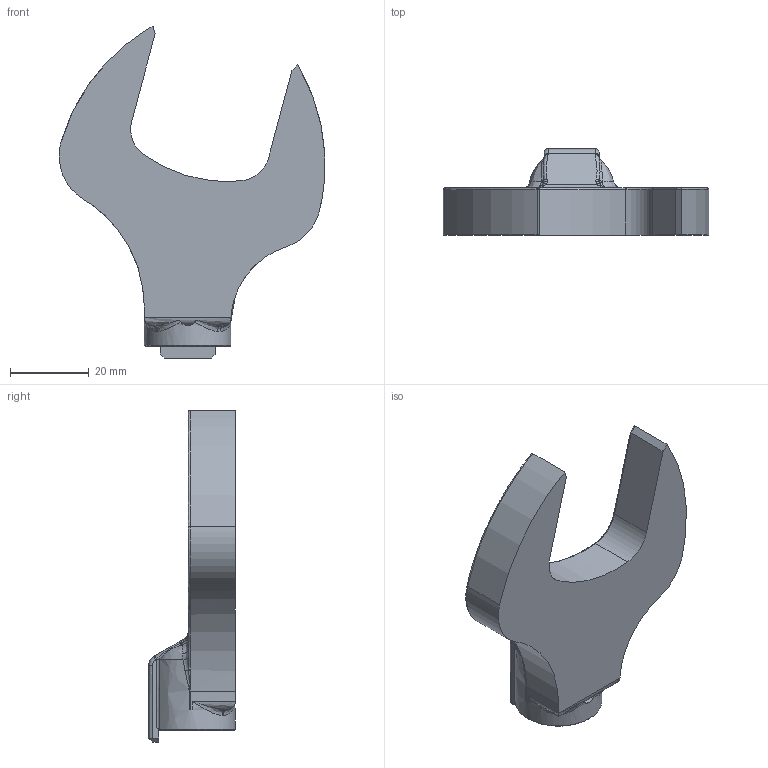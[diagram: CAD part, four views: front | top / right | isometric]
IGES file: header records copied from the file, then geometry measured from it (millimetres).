
Global section: file name: SH15DX36; native system: Autodesk Inventor 2016; preprocessor: unknown; author: Q600; date: 20151029.183659; units: millimetre
Bounding box: 67.5 x 22 x 84.38 mm (x, y, z)
Volume: 29730.1 mm3; surface area: 9817.9 mm2
Topology: 1 solids, 1 shells, 108 faces, 286 edges, 172 vertices
Faces by surface type: bspline 108
